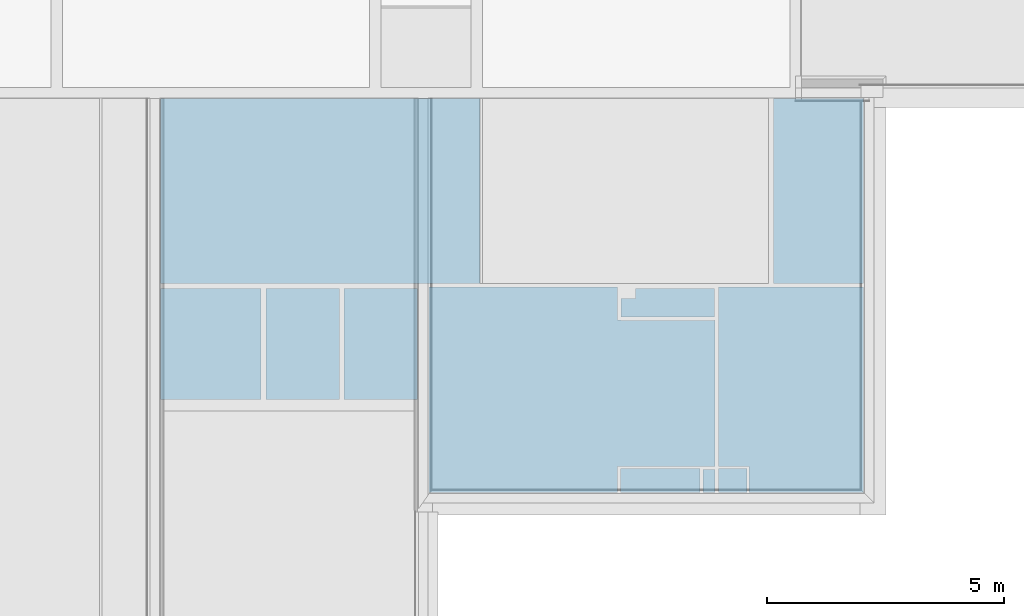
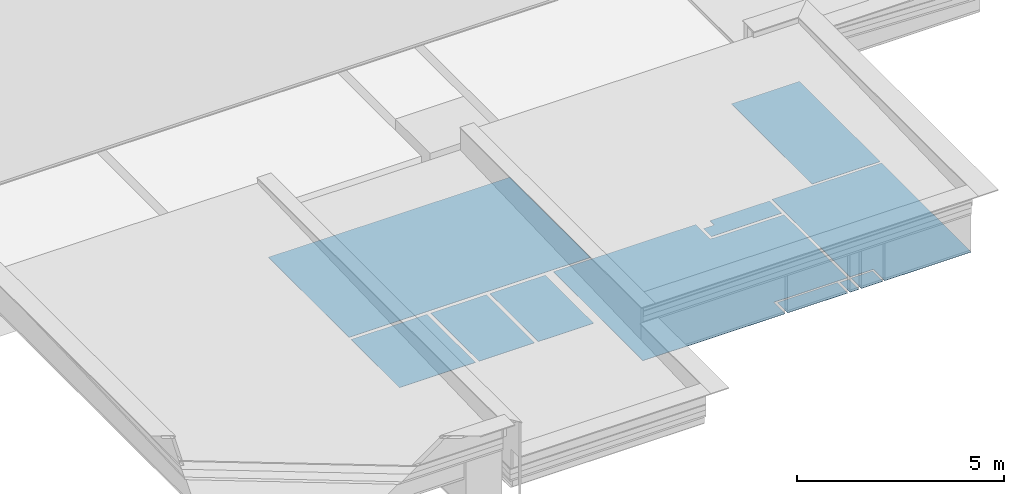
# One storey, part 5 of 13: 1 building element part, 1 element without a shape of its own.
"""IFC2X3 building model written with IfcOpenShell, lengths in metres."""

from ifc_helpers import new_model, entity, si_unit, converted_unit, derived_unit, money_unit, direction, frame, origin_with_axes, place, context, subcontext, project, spatial, polyline, outline, extrude, boolean, faceted_brep, material, type_object, element, aggregate, save


model = new_model("IFC2X3")

# Units and contexts
model_context = context("Model", 3, precision=1e-05, world=origin_with_axes(), true_north=direction((0.0, 1.0)))
body_context = subcontext(model_context, "Body", "Model", "MODEL_VIEW")
ifc_project = project(units=[si_unit("LENGTHUNIT", "METRE"), si_unit("AREAUNIT", "SQUARE_METRE"), si_unit("VOLUMEUNIT", "CUBIC_METRE"), converted_unit("PLANEANGLEUNIT", "DEGREE", entity("IfcPlaneAngleMeasure", 0.0174532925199), si_unit("PLANEANGLEUNIT", "RADIAN"), dimensions=[0, 0, 0, 0, 0, 0, 0]), money_unit("CHF"), converted_unit("TIMEUNIT", "Year", entity("IfcTimeMeasure", 31556926.0), si_unit("TIMEUNIT", "SECOND"), dimensions=[0, 0, 1, 0, 0, 0, 0]), si_unit("MASSUNIT", "GRAM", prefix="KILO"), si_unit("THERMODYNAMICTEMPERATUREUNIT", "DEGREE_CELSIUS"), si_unit("LUMINOUSINTENSITYUNIT", "LUMEN"), si_unit("ENERGYUNIT", "JOULE", prefix="MEGA"), derived_unit("THERMALCONDUCTANCEUNIT", [(si_unit("POWERUNIT", "WATT"), 1), (si_unit("LENGTHUNIT", "METRE"), -1), (si_unit("THERMODYNAMICTEMPERATUREUNIT", "KELVIN"), -1)]), derived_unit("SPECIFICHEATCAPACITYUNIT", [(si_unit("ENERGYUNIT", "JOULE"), 1), (si_unit("MASSUNIT", "GRAM", prefix="KILO"), -1), (si_unit("THERMODYNAMICTEMPERATUREUNIT", "KELVIN"), -1)]), derived_unit("MASSDENSITYUNIT", [(si_unit("MASSUNIT", "GRAM", prefix="KILO"), 1), (si_unit("VOLUMEUNIT", "CUBIC_METRE"), -1)])], contexts=[model_context])

# Site, building, storey
site_placement = place(None, origin_with_axes())
site = spatial("IfcSite", under=ifc_project, at=site_placement, Name="Site", CompositionType="ELEMENT")
building_placement = place(site_placement, origin_with_axes())
building = spatial("IfcBuilding", under=site, at=building_placement, Name="Bâtiment", CompositionType="ELEMENT")
storey_placement = place(building_placement, frame((0.0, 0.0, 3.0), z_axis=(0.0, 0.0, 1.0), x_axis=(1.0, 0.0, 0.0)))
storey = spatial("IfcBuildingStorey", under=building, at=storey_placement, Name="Toitures", CompositionType="ELEMENT", Elevation=3.0)

# Slab, building element part
slab_type = type_object("IfcSlabType", Name="Plafond dalles minérale 2570", PredefinedType="FLOOR")
slab_placement = place(storey_placement, frame((23.4594696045, 14.8800000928, 2.07), z_axis=(0.0, 0.0, 1.0), x_axis=(1.0, 0.0, 0.0)))
slab = element("IfcSlab", 1, at=slab_placement, inside=storey, type_object=slab_type, Name="Faux plafonds suspendus", PredefinedType="FLOOR")
ifc_material = material(Name="Plaque fibre-gypse")
building_element_part_placement = place(slab_placement, origin_with_axes())
building_element_part = element("IfcBuildingElementPart", 2, at=building_element_part_placement, material=ifc_material, Name="Plaque fibre-gypse", context=body_context, shape_type="CSG", body=[
    boolean("DIFFERENCE", boolean("DIFFERENCE", boolean("DIFFERENCE", boolean("DIFFERENCE", boolean("DIFFERENCE", extrude(outline(polyline([(0.0, 0.0), (-4.64999982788, 0.0), (-4.64999982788, -6.33987439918), (0.770000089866, -6.33987439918), (0.770000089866, -3.89987444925), (1.01000026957, -3.89987444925), (1.01000026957, -8.29987443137), (10.1700001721, -8.29987443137), (10.1700001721, 0.0), (8.27000015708, 0.0), (8.27000022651, -3.89987433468), (2.1400002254, -3.89987444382), (2.14000015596, -5.37518882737e-08), (1.90000034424, 0.0), (0.0, 0.0)])), frame((0.0, 0.0, -2.57), z_axis=(0.0, 0.0, 1.0), x_axis=(1.0, 0.0, 0.0)), (0.0, 0.0, 1.0), 0.01), faceted_brep([(7.11000017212, -7.74987443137, -2.56), (7.11000017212, -3.96987443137, -2.56), (10.1700001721, -3.96987443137, -2.56), (10.1700001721, -3.89987443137, -2.56), (8.27000022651, -3.89987443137, -2.56), (2.1400002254, -3.89987444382, -2.56), (2.14000015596, -5.37518882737e-08, -2.56), (2.09000008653, -1.07356783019e-07, -2.56), (2.09000008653, -3.89987443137, -2.56), (1.01000026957, -3.89987443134, -2.56), (1.01000026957, -3.96987443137, -2.56), (4.98000017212, -3.96987443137, -2.56), (4.98000017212, -4.66987443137, -2.56), (5.06000017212, -4.66987443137, -2.56), (5.06000017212, -4.67987443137, -2.56), (7.03000017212, -4.67987443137, -2.56), (7.03000017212, -4.66987443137, -2.56), (7.04000017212, -4.66987443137, -2.56), (7.04000017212, -7.74987443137, -2.56), (6.73300017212, -7.74987443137, -2.56), (6.72000017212, -7.74987443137, -2.56), (4.99300017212, -7.74987443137, -2.56), (4.98000017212, -7.74987443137, -2.56), (4.98000017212, -8.29987443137, -2.56), (5.05000017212, -8.29987443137, -2.56), (5.05000017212, -7.79987443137, -2.56), (6.72000017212, -7.79987443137, -2.56), (6.72000017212, -8.29987443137, -2.56), (6.79000017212, -8.29987443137, -2.56), (6.79000017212, -7.81987443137, -2.56), (7.04000017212, -7.81987443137, -2.56), (7.04000017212, -8.29987443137, -2.56), (7.11000017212, -8.29987443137, -2.56), (7.11000017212, -7.79987443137, -2.56), (7.71000017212, -7.79987443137, -2.56), (7.71000017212, -8.29987443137, -2.56), (7.76000017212, -8.29987443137, -2.56), (7.76000017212, -7.74987443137, -2.56), (7.74700017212, -7.74987443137, -2.56), (7.03000017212, -3.99987443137, -2.56), (7.03000017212, -4.59987443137, -2.56), (5.06000017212, -4.59987443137, -2.56), (5.06000017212, -4.21287444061, -2.56), (5.36000017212, -4.21287444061, -2.56), (5.36000017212, -3.99987443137, -2.56), (7.11000017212, -7.74987443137, -2.57), (7.11000017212, -3.96987443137, -2.57), (10.1700001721, -3.96987443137, -2.57), (10.1700001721, -3.89987443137, -2.57), (8.27000022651, -3.89987443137, -2.57), (2.1400002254, -3.89987444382, -2.57), (2.14000015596, -5.37518882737e-08, -2.57), (2.09000008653, -1.07356783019e-07, -2.57), (2.09000008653, -3.89987443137, -2.57), (1.01000026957, -3.89987443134, -2.57), (1.01000026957, -3.96987443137, -2.57), (4.98000017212, -3.96987443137, -2.57), (4.98000017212, -4.66987443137, -2.57), (5.06000017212, -4.66987443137, -2.57), (5.06000017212, -4.67987443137, -2.57), (7.03000017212, -4.67987443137, -2.57), (7.03000017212, -4.66987443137, -2.57), (7.04000017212, -4.66987443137, -2.57), (7.04000017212, -7.74987443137, -2.57), (6.73300017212, -7.74987443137, -2.57), (6.72000017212, -7.74987443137, -2.57), (4.99300017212, -7.74987443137, -2.57), (4.98000017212, -7.74987443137, -2.57), (4.98000017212, -8.29987443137, -2.57), (5.05000017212, -8.29987443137, -2.57), (5.05000017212, -7.79987443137, -2.57), (6.72000017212, -7.79987443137, -2.57), (6.72000017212, -8.29987443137, -2.57), (6.79000017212, -8.29987443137, -2.57), (6.79000017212, -7.81987443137, -2.57), (7.04000017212, -7.81987443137, -2.57), (7.04000017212, -8.29987443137, -2.57), (7.11000017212, -8.29987443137, -2.57), (7.11000017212, -7.79987443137, -2.57), (7.71000017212, -7.79987443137, -2.57), (7.71000017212, -8.29987443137, -2.57), (7.76000017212, -8.29987443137, -2.57), (7.76000017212, -7.74987443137, -2.57), (7.74700017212, -7.74987443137, -2.57), (7.03000017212, -3.99987443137, -2.57), (7.03000017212, -4.59987443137, -2.57), (5.06000017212, -4.59987443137, -2.57), (5.06000017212, -4.21287444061, -2.57), (5.36000017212, -4.21287444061, -2.57), (5.36000017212, -3.99987443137, -2.57)], [[[0, 1, 2, 3, 4, 5, 6, 7, 8, 9, 10, 11, 12, 13, 14, 15, 16, 17, 18, 19, 20, 21, 22, 23, 24, 25, 26, 27, 28, 29, 30, 31, 32, 33, 34, 35, 36, 37, 38], [39, 40, 41, 42, 43, 44]], [[45, 46, 1, 0]], [[47, 2, 1, 46]], [[2, 47, 48, 3]], [[3, 48, 49, 4]], [[4, 49, 50, 5]], [[51, 6, 5, 50]], [[51, 52, 7, 6]], [[8, 7, 52, 53]], [[8, 53, 54, 9]], [[10, 9, 54, 55]], [[10, 55, 56, 11]], [[11, 56, 57, 12]], [[12, 57, 58, 13]], [[13, 58, 59, 14]], [[14, 59, 60, 15]], [[15, 60, 61, 16]], [[16, 61, 62, 17]], [[17, 62, 63, 18]], [[18, 63, 64, 19]], [[19, 64, 65, 20]], [[20, 65, 66, 21]], [[21, 66, 67, 22]], [[22, 67, 68, 23]], [[24, 23, 68, 69]], [[70, 25, 24, 69]], [[71, 26, 25, 70]], [[72, 27, 26, 71]], [[72, 73, 28, 27]], [[28, 73, 74, 29]], [[29, 74, 75, 30]], [[30, 75, 76, 31]], [[32, 31, 76, 77]], [[33, 32, 77, 78]], [[34, 33, 78, 79]], [[35, 34, 79, 80]], [[81, 36, 35, 80]], [[81, 82, 37, 36]], [[82, 83, 38, 37]], [[83, 45, 0, 38]], [[40, 39, 84, 85]], [[41, 40, 85, 86]], [[42, 41, 86, 87]], [[43, 42, 87, 88]], [[44, 43, 88, 89]], [[39, 44, 89, 84]], [[82, 81, 80, 79, 78, 77, 76, 75, 74, 73, 72, 71, 70, 69, 68, 67, 66, 65, 64, 63, 62, 61, 60, 59, 58, 57, 56, 55, 54, 53, 52, 51, 50, 49, 48, 47, 46, 45, 83], [84, 89, 88, 87, 86, 85]]])), faceted_brep([(0.770000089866, -3.89987443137, -2.57), (0.770000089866, -3.89987443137, -2.56), (0.770000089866, -3.99987443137, -2.56), (0.770000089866, -3.99987443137, -2.57), (-4.64999982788, -3.89987443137, -2.57), (-4.64999982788, -3.89987443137, -2.56), (-4.64999982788, -3.99987443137, -2.56), (-2.52999982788, -3.99987443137, -2.56), (-2.52999982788, -6.33987439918, -2.56), (-2.42999982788, -6.33987439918, -2.56), (-2.42999982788, -3.99987443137, -2.56), (-0.879999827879, -3.99987443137, -2.56), (-0.879999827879, -6.33987439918, -2.56), (-0.779999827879, -6.33987439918, -2.56), (-0.779999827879, -3.99987443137, -2.56), (-0.779999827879, -3.99987443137, -2.57), (-0.779999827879, -6.33987439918, -2.57), (-0.879999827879, -6.33987439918, -2.57), (-0.879999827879, -3.99987443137, -2.57), (-2.42999982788, -3.99987443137, -2.57), (-2.42999982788, -6.33987439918, -2.57), (-2.52999982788, -6.33987439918, -2.57), (-2.52999982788, -3.99987443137, -2.57), (-4.64999982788, -3.99987443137, -2.57)], [[[0, 1, 2, 3]], [[1, 0, 4, 5]], [[1, 5, 6, 7, 8, 9, 10, 11, 12, 13, 14, 2]], [[15, 3, 2, 14]], [[4, 0, 3, 15, 16, 17, 18, 19, 20, 21, 22, 23]], [[5, 4, 23, 6]], [[22, 7, 6, 23]], [[21, 8, 7, 22]], [[8, 21, 20, 9]], [[10, 9, 20, 19]], [[11, 10, 19, 18]], [[12, 11, 18, 17]], [[17, 16, 13, 12]], [[13, 16, 15, 14]]])), faceted_brep([(0.770000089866, -3.89987443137, -2.56), (0.770000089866, -3.89987443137, -2.5), (0.770000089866, -3.99987443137, -2.5), (0.770000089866, -3.99987443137, -2.56), (-4.64999982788, -3.89987443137, -2.5), (-4.64999982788, -3.89987443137, -2.56), (-0.879999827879, -6.33987439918, -2.5), (-0.779999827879, -6.33987439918, -2.5), (-0.779999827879, -3.99987443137, -2.5), (-4.64999982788, -3.99987443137, -2.5), (-2.52999982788, -3.99987443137, -2.5), (-2.52999982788, -6.33987439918, -2.5), (-2.42999982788, -6.33987439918, -2.5), (-2.42999982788, -3.99987443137, -2.5), (-0.879999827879, -3.99987443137, -2.5), (-0.779999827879, -3.99987443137, -2.56), (-2.42999982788, -6.33987439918, -2.56), (-2.52999982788, -6.33987439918, -2.56), (-2.52999982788, -3.99987443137, -2.56), (-4.64999982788, -3.99987443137, -2.56), (-0.779999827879, -6.33987439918, -2.56), (-0.879999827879, -6.33987439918, -2.56), (-0.879999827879, -3.99987443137, -2.56), (-2.42999982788, -3.99987443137, -2.56)], [[[0, 1, 2, 3]], [[4, 1, 0, 5]], [[6, 7, 8, 2, 1, 4, 9, 10, 11, 12, 13, 14]], [[15, 3, 2, 8]], [[16, 17, 18, 19, 5, 0, 3, 15, 20, 21, 22, 23]], [[4, 5, 19, 9]], [[21, 20, 7, 6]], [[15, 8, 7, 20]], [[9, 19, 18, 10]], [[10, 18, 17, 11]], [[11, 17, 16, 12]], [[16, 23, 13, 12]], [[23, 22, 14, 13]], [[22, 21, 6, 14]]])), faceted_brep([(7.04000017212, -8.29987443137, -2.5), (7.11000017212, -8.29987443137, -2.5), (7.11000017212, -7.79987443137, -2.5), (7.71000017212, -7.79987443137, -2.5), (7.71000017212, -8.29987443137, -2.5), (7.76000017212, -8.29987443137, -2.5), (7.76000017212, -7.74987443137, -2.5), (7.74700017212, -7.74987443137, -2.5), (7.11000017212, -7.74987443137, -2.5), (7.11000017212, -3.96987443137, -2.5), (10.1700001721, -3.96987443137, -2.5), (10.1700001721, -3.89987443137, -2.5), (8.27000022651, -3.89987443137, -2.5), (2.1400002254, -3.89987444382, -2.5), (2.14000015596, -5.37518882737e-08, -2.5), (2.09000008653, -1.07356783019e-07, -2.5), (2.09000008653, -3.89987443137, -2.5), (1.01000026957, -3.89987443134, -2.5), (1.01000026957, -3.96987443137, -2.5), (4.98000017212, -3.96987443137, -2.5), (4.98000017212, -4.66987443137, -2.5), (5.06000017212, -4.66987443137, -2.5), (5.06000017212, -4.67987443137, -2.5), (7.03000017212, -4.67987443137, -2.5), (7.03000017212, -4.66987443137, -2.5), (7.04000017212, -4.66987443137, -2.5), (7.04000017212, -7.74987443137, -2.5), (6.73300017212, -7.74987443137, -2.5), (6.72000017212, -7.74987443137, -2.5), (4.99300017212, -7.74987443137, -2.5), (4.98000017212, -7.74987443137, -2.5), (4.98000017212, -8.29987443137, -2.5), (5.05000017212, -8.29987443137, -2.5), (5.05000017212, -7.79987443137, -2.5), (6.72000017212, -7.79987443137, -2.5), (6.72000017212, -8.29987443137, -2.5), (6.79000017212, -8.29987443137, -2.5), (6.79000017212, -7.81987443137, -2.5), (7.04000017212, -7.81987443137, -2.5), (5.36000017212, -4.21287444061, -2.5), (5.36000017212, -3.99987443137, -2.5), (7.03000017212, -3.99987443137, -2.5), (7.03000017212, -4.59987443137, -2.5), (5.06000017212, -4.59987443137, -2.5), (5.06000017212, -4.21287444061, -2.5), (7.04000017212, -8.29987443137, -2.56), (7.11000017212, -8.29987443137, -2.56), (7.11000017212, -7.79987443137, -2.56), (7.71000017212, -7.79987443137, -2.56), (7.71000017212, -8.29987443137, -2.56), (7.76000017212, -8.29987443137, -2.56), (7.76000017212, -7.74987443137, -2.56), (7.74700017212, -7.74987443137, -2.56), (7.11000017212, -7.74987443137, -2.56), (7.11000017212, -3.96987443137, -2.56), (10.1700001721, -3.96987443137, -2.56), (10.1700001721, -3.89987443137, -2.56), (8.27000022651, -3.89987443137, -2.56), (2.1400002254, -3.89987444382, -2.56), (2.14000015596, -5.37518882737e-08, -2.56), (2.09000008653, -1.07356783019e-07, -2.56), (2.09000008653, -3.89987443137, -2.56), (1.01000026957, -3.89987443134, -2.56), (1.01000026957, -3.96987443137, -2.56), (4.98000017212, -3.96987443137, -2.56), (4.98000017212, -4.66987443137, -2.56), (5.06000017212, -4.66987443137, -2.56), (5.06000017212, -4.67987443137, -2.56), (7.03000017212, -4.67987443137, -2.56), (7.03000017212, -4.66987443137, -2.56), (7.04000017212, -4.66987443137, -2.56), (7.04000017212, -7.74987443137, -2.56), (6.73300017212, -7.74987443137, -2.56), (6.72000017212, -7.74987443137, -2.56), (4.99300017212, -7.74987443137, -2.56), (4.98000017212, -7.74987443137, -2.56), (4.98000017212, -8.29987443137, -2.56), (5.05000017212, -8.29987443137, -2.56), (5.05000017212, -7.79987443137, -2.56), (6.72000017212, -7.79987443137, -2.56), (6.72000017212, -8.29987443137, -2.56), (6.79000017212, -8.29987443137, -2.56), (6.79000017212, -7.81987443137, -2.56), (7.04000017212, -7.81987443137, -2.56), (5.36000017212, -4.21287444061, -2.56), (5.36000017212, -3.99987443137, -2.56), (7.03000017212, -3.99987443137, -2.56), (7.03000017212, -4.59987443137, -2.56), (5.06000017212, -4.59987443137, -2.56), (5.06000017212, -4.21287444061, -2.56)], [[[0, 1, 2, 3, 4, 5, 6, 7, 8, 9, 10, 11, 12, 13, 14, 15, 16, 17, 18, 19, 20, 21, 22, 23, 24, 25, 26, 27, 28, 29, 30, 31, 32, 33, 34, 35, 36, 37, 38], [39, 40, 41, 42, 43, 44]], [[1, 0, 45, 46]], [[46, 47, 2, 1]], [[47, 48, 3, 2]], [[48, 49, 4, 3]], [[50, 5, 4, 49]], [[6, 5, 50, 51]], [[7, 6, 51, 52]], [[8, 7, 52, 53]], [[9, 8, 53, 54]], [[55, 10, 9, 54]], [[10, 55, 56, 11]], [[12, 11, 56, 57]], [[12, 57, 58, 13]], [[59, 14, 13, 58]], [[59, 60, 15, 14]], [[61, 16, 15, 60]], [[62, 17, 16, 61]], [[18, 17, 62, 63]], [[64, 19, 18, 63]], [[65, 20, 19, 64]], [[66, 21, 20, 65]], [[67, 22, 21, 66]], [[68, 23, 22, 67]], [[69, 24, 23, 68]], [[70, 25, 24, 69]], [[71, 26, 25, 70]], [[72, 27, 26, 71]], [[73, 28, 27, 72]], [[74, 29, 28, 73]], [[75, 30, 29, 74]], [[76, 31, 30, 75]], [[32, 31, 76, 77]], [[32, 77, 78, 33]], [[33, 78, 79, 34]], [[34, 79, 80, 35]], [[80, 81, 36, 35]], [[82, 37, 36, 81]], [[83, 38, 37, 82]], [[45, 0, 38, 83]], [[84, 85, 40, 39]], [[85, 86, 41, 40]], [[86, 87, 42, 41]], [[87, 88, 43, 42]], [[88, 89, 44, 43]], [[89, 84, 39, 44]], [[59, 58, 57, 56, 55, 54, 53, 52, 51, 50, 49, 48, 47, 46, 45, 83, 82, 81, 80, 79, 78, 77, 76, 75, 74, 73, 72, 71, 70, 69, 68, 67, 66, 65, 64, 63, 62, 61, 60], [88, 87, 86, 85, 84, 89]]])), faceted_brep([(0.770000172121, -3.99987443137, -2.28), (0.770000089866, -3.99987443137, -2.5), (0.770000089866, -3.89987444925, -2.5), (0.770000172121, -3.89987443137, -2.28), (0.770000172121, -3.89987443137, -2.27), (0.770000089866, -3.89987444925, 0.0), (0.770000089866, -6.33987439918, 0.0), (0.770000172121, -6.33987439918, -2.28), (0.715000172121, -3.99987443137, -2.28), (0.715000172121, -3.99987443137, -1.79569560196), (-0.779999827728, -3.99987443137, -1.79569560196), (-0.779999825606, -3.99987443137, -2.5), (-0.779999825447, -6.33987439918, -2.5), (-0.879999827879, -6.33987439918, -2.5), (-0.879999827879, -3.99987443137, -2.5), (-2.42999982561, -3.99987443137, -2.5), (-2.42999982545, -6.33987439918, -2.5), (-2.52999982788, -6.33987439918, -2.5), (-2.52999982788, -3.99987443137, -2.5), (-4.64999982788, -3.99987443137, -2.5), (-4.64999982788, -3.89987443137, -2.5), (0.715000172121, -3.8998744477, -1.79219560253), (0.715000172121, -3.89987443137, -2.28), (-4.64999979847, -3.89987443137, -2.28), (-4.59499979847, -3.89987443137, -2.28), (-4.59499979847, -3.89987443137, -1.79219560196), (0.770000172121, -8.8065945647e-08, -2.28), (0.770000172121, -8.8065945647e-08, -2.27), (1.01000026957, -3.89987444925, 0.0), (1.01000017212, -3.89987443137, -2.27), (1.01000026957, -8.29987443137, 0.0), (10.1700001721, -8.29987443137, 0.0), (10.1700001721, 0.0, 0.0), (8.27000015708, 0.0, 0.0), (8.27000022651, -3.89987433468, 0.0), (2.1400002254, -3.89987444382, 0.0), (2.14000015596, -5.37518882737e-08, 0.0), (1.90000034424, 0.0, 0.0), (0.0, 0.0, 0.0), (-4.64999982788, 0.0, 0.0), (-4.64999982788, -6.33987439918, 0.0), (0.715000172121, -6.33987439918, -2.28), (-4.64999979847, -6.33987439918, -2.28), (-4.59499979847, -6.33987439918, -2.28), (-4.59499979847, -6.33987439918, -1.87759560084), (-2.52999982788, -6.33987439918, -1.87759560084), (-2.42999982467, -6.33987439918, -1.87759560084), (-0.879999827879, -6.33987439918, -1.87759560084), (-0.779999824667, -6.33987439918, -1.87759560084), (0.715000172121, -6.33987439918, -1.87759560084), (-0.879999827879, -3.99987443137, -1.79569560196), (-2.42999982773, -3.99987443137, -1.79569560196), (-2.52999982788, -3.99987443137, -1.79569560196), (-4.59499979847, -3.99987443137, -2.28), (-4.64999979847, -3.99987443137, -2.28), (-4.59499979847, -3.99987443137, -1.79569560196), (-4.64999979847, -8.8065945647e-08, -2.28), (0.715000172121, -8.8065945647e-08, -1.65569999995), (0.715000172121, -8.8065945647e-08, -2.28), (-4.59499979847, -8.8065945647e-08, -2.28), (-4.59499979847, -8.8065945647e-08, -1.65569999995), (0.0, -8.8065945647e-08, -1.65569999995), (1.90000034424, -6.83405616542e-08, -1.15569999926), (1.06500017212, 0.0, -1.15569999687), (1.06500017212, 0.0, -1.18963966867), (1.01000017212, -5.37068345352e-08, -1.18963966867), (1.01000017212, -2.26407070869e-08, -2.27), (1.01000026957, -8.29987443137, -1.44619560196), (1.01000026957, -3.89987444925, -2.5), (1.01000026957, -3.96987443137, -2.5), (1.01000026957, -3.96987443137, -1.29464560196), (7.11000017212, -8.29987443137, -1.44619560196), (7.71000017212, -8.29987443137, -1.44619560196), (7.71000017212, -8.29987443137, -2.5), (7.76000017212, -8.29987443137, -2.5), (7.76000017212, -8.29987443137, -1.44619560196), (10.1700001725, -8.29987443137, -1.44619560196), (4.98000017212, -8.29987443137, -1.44619560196), (4.98000017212, -8.29987443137, -2.5), (5.05000017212, -8.29987443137, -2.5), (5.05000017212, -8.29987443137, -1.44619560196), (6.72000017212, -8.29987443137, -1.44619560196), (6.72000017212, -8.29987443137, -2.5), (6.79000017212, -8.29987443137, -2.5), (6.79000017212, -8.29987443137, -1.44619560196), (7.04000017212, -8.29987443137, -1.44619560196), (7.04000017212, -8.29987443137, -2.5), (7.11000017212, -8.29987443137, -2.5), (10.1700001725, -3.96987443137, -1.29464560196), (10.1700001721, -3.96987443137, -2.5), (10.1700001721, -3.89987443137, -2.5), (10.1700001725, -3.89987444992, -1.29219560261), (10.1700001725, -0.969704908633, -1.18963966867), (10.1700001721, 0.0, -1.18963966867), (8.86000017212, 0.0, -1.18963966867), (8.86000017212, 0.0, -1.15569999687), (8.27000015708, 0.0, -1.15569999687), (8.27000022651, -3.89987441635, -1.29219560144), (2.14000021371, -3.89987443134, -1.29219560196), (8.27000022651, -3.89987433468, -2.5), (2.1400002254, -3.89987444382, -2.5), (2.14000008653, -3.89987443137, -1.80977391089), (2.14000011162, -8.79833343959e-08, -1.15569999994), (1.01000019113, -0.969704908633, -1.18963966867), (1.06500017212, -0.969704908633, -1.18963966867), (1.01000026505, -3.89987444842, -1.29219560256), (2.09000008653, -3.89987443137, -1.80977391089), (2.09000008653, -3.89987443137, -2.5), (2.09000008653, -1.07356783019e-07, -2.5), (2.14000015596, -5.37518882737e-08, -2.5), (7.11000017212, -3.96987443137, -2.5), (7.11000017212, -7.74987443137, -2.5), (7.74700017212, -7.74987443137, -2.5), (7.76000017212, -7.74987443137, -2.5), (7.71000017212, -7.79987443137, -2.5), (7.11000017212, -7.79987443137, -2.5), (7.04000017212, -7.81987443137, -2.5), (6.79000017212, -7.81987443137, -2.5), (6.72000017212, -7.79987443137, -2.5), (5.05000017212, -7.79987443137, -2.5), (4.98000017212, -7.74987443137, -2.5), (4.99300017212, -7.74987443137, -2.5), (6.72000017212, -7.74987443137, -2.5), (6.73300017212, -7.74987443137, -2.5), (7.04000017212, -7.74987443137, -2.5), (7.04000017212, -4.66987443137, -2.5), (7.03000017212, -4.66987443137, -2.5), (7.03000017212, -4.67987443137, -2.5), (5.06000017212, -4.67987443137, -2.5), (5.06000017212, -4.66987443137, -2.5), (4.98000017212, -4.66987443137, -2.5), (4.98000017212, -3.96987443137, -2.5), (5.36000017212, -4.21287444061, -2.5), (5.06000017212, -4.21287444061, -2.5), (5.06000017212, -4.59987443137, -2.5), (7.03000017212, -4.59987443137, -2.5), (7.03000017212, -3.99987443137, -2.5), (5.36000017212, -3.99987443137, -2.5), (4.98000017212, -3.96987443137, -1.29464560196), (7.04000017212, -4.66987443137, -1.31914560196), (7.04000017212, -7.74987443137, -1.42694560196), (6.73300017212, -7.74987443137, -1.42694560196), (6.72000017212, -7.74987443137, -1.42694560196), (4.99300017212, -7.74987443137, -1.42694560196), (4.98000017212, -7.74987443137, -1.42694560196), (4.98000017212, -4.66987443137, -1.31914560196), (5.06000017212, -4.66987443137, -1.31914560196), (5.06000017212, -4.67987443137, -1.31949560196), (7.03000017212, -4.67987443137, -1.31949560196), (7.03000017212, -4.66987443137, -1.31914560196), (7.71000017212, -7.79987443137, -1.42869560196), (7.11000017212, -7.79987443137, -1.42869560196), (7.76000017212, -7.74987443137, -1.42694560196), (7.74700017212, -7.74987443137, -1.42694560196), (7.11000017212, -7.74987443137, -1.42694560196), (7.11000017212, -3.96987443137, -1.29464560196), (5.05000017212, -7.79987443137, -1.42869560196), (6.72000017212, -7.79987443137, -1.42869560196), (6.79000017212, -7.81987443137, -1.42939560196), (7.04000017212, -7.81987443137, -1.42939560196), (8.86000017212, -0.0518744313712, -1.15751560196), (10.1150001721, -0.0518744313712, -1.15751560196), (10.1150001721, -0.969704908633, -1.18963966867), (10.1150001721, -0.0518744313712, -1.18963966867), (8.86000017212, -0.0518744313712, -1.18963966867), (2.14000008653, -1.07356783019e-07, -1.80977391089), (2.09000008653, -1.07356783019e-07, -1.80977391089), (5.36000017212, -4.21287444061, -2.12), (5.06000017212, -4.21287444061, -2.12), (5.06000017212, -3.99987443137, -1.29569560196), (5.06000017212, -4.59987443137, -1.31669560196), (5.06000017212, -3.99987443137, -2.12), (7.03000017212, -4.59987443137, -1.31669560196), (7.03000017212, -3.99987443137, -1.29569560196), (5.36000017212, -3.99987443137, -2.12)], [[[0, 1, 2, 3, 4, 5, 6, 7]], [[1, 0, 8, 9, 10, 11]], [[11, 12, 13, 14, 15, 16, 17, 18, 19, 20, 2, 1]], [[21, 22, 3, 2, 20, 23, 24, 25]], [[4, 3, 26, 27]], [[28, 5, 4, 29]], [[30, 31, 32, 33, 34, 35, 36, 37, 38, 39, 40, 6, 5, 28]], [[41, 7, 6, 40, 42, 43, 44, 45, 17, 16, 46, 47, 13, 12, 48, 49]], [[0, 7, 41, 8]], [[41, 49, 9, 8]], [[49, 48, 10, 9]], [[12, 11, 10, 48]], [[50, 14, 13, 47]], [[51, 15, 14, 50]], [[46, 16, 15, 51]], [[45, 52, 18, 17]], [[53, 54, 19, 18, 52, 55]], [[20, 19, 54, 42, 40, 39, 56, 23]], [[22, 21, 57, 58]], [[3, 22, 58, 26]], [[24, 23, 56, 59]], [[25, 24, 59, 60]], [[61, 57, 21, 25, 60]], [[38, 37, 62, 63, 64, 65, 66, 27, 26, 58, 57, 61]], [[29, 4, 27, 66]], [[67, 30, 28, 29, 68, 69, 70]], [[71, 72, 73, 74, 75, 76, 31, 30, 67, 77, 78, 79, 80, 81, 82, 83, 84, 85, 86, 87]], [[88, 89, 90, 91, 92, 93, 32, 31, 76]], [[32, 93, 94, 95, 96, 33]], [[97, 34, 33, 96]], [[98, 35, 34, 97, 99, 100, 101]], [[36, 35, 98, 102]], [[37, 36, 102, 62]], [[39, 38, 61, 60, 59, 56]], [[54, 53, 43, 42]], [[53, 55, 44, 43]], [[55, 52, 45, 44]], [[50, 47, 46, 51]], [[103, 104, 63, 62, 102, 98, 105]], [[104, 64, 63]], [[104, 103, 65, 64]], [[66, 65, 103, 105, 29]], [[68, 29, 105, 98, 101, 106, 107]], [[108, 109, 100, 99, 90, 89, 110, 111, 112, 113, 74, 73, 114, 115, 87, 86, 116, 117, 83, 82, 118, 119, 79, 78, 120, 121, 122, 123, 124, 125, 126, 127, 128, 129, 130, 131, 69, 68, 107], [132, 133, 134, 135, 136, 137]], [[138, 70, 69, 131]], [[139, 140, 141, 142, 143, 144, 77, 67, 70, 138, 145, 146, 147, 148, 149]], [[150, 72, 71, 151]], [[150, 114, 73, 72]], [[74, 113, 152, 75]], [[152, 153, 154, 155, 88, 76, 75]], [[77, 144, 120, 78]], [[80, 79, 119, 156]], [[157, 81, 80, 156]], [[157, 118, 82, 81]], [[117, 158, 84, 83]], [[84, 158, 159, 85]], [[86, 85, 159, 116]], [[71, 87, 115, 151]], [[89, 88, 155, 110]], [[90, 99, 97, 91]], [[160, 161, 162, 92, 91, 97, 96, 95]], [[162, 163, 164, 94, 93, 92]], [[94, 164, 160, 95]], [[100, 109, 165, 101]], [[166, 106, 101, 165]], [[107, 106, 166, 108]], [[109, 108, 166, 165]], [[111, 110, 155, 154]], [[112, 111, 154, 153]], [[113, 112, 153, 152]], [[151, 115, 114, 150]], [[116, 159, 158, 117]], [[156, 119, 118, 157]], [[144, 143, 121, 120]], [[143, 142, 122, 121]], [[142, 141, 123, 122]], [[141, 140, 124, 123]], [[140, 139, 125, 124]], [[139, 149, 126, 125]], [[149, 148, 127, 126]], [[148, 147, 128, 127]], [[147, 146, 129, 128]], [[146, 145, 130, 129]], [[145, 138, 131, 130]], [[133, 132, 167, 168]], [[169, 170, 134, 133, 168, 171]], [[135, 134, 170, 172]], [[136, 135, 172, 173]], [[171, 174, 137, 136, 173, 169]], [[132, 137, 174, 167]], [[164, 163, 161, 160]], [[161, 163, 162]], [[167, 174, 171, 168]], [[172, 170, 169, 173]]])),
])
aggregate(slab, [building_element_part])

save(model, "model.ifc")
